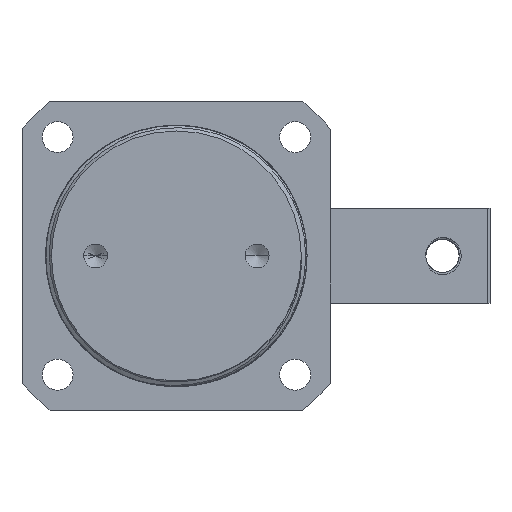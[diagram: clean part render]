
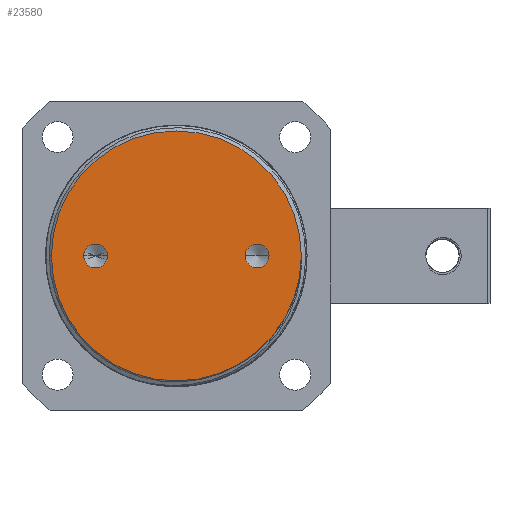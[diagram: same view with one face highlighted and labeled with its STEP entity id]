
A CAD part, front view. The second image highlights one B-rep face of the part: STEP entity #23580.
In plain terms, the highlighted planar face has unit normal (0, -1, 0).
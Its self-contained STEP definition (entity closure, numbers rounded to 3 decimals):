
#10277=CARTESIAN_POINT('',(0.,-72.5,0.));
#10278=DIRECTION('',(0.,-1.,0.));
#10279=DIRECTION('',(1.,0.,0.));
#10280=AXIS2_PLACEMENT_3D('',#10277,#10278,#10279);
#10292=CARTESIAN_POINT('',(0.,-72.5,0.));
#10293=DIRECTION('',(0.,1.,0.));
#10294=DIRECTION('',(1.,0.,0.));
#10295=AXIS2_PLACEMENT_3D('',#10292,#10293,#10294);
#10332=CARTESIAN_POINT('',(17.,-72.5,0.));
#10333=DIRECTION('',(0.,1.,0.));
#10334=DIRECTION('',(1.,0.,0.));
#10335=AXIS2_PLACEMENT_3D('',#10332,#10333,#10334);
#10337=CARTESIAN_POINT('',(17.,-72.5,0.));
#10338=DIRECTION('',(0.,1.,0.));
#10339=DIRECTION('',(-1.,0.,0.));
#10340=AXIS2_PLACEMENT_3D('',#10337,#10338,#10339);
#10342=CARTESIAN_POINT('',(-17.,-72.5,0.));
#10343=DIRECTION('',(0.,-1.,0.));
#10344=DIRECTION('',(-1.,0.,0.));
#10345=AXIS2_PLACEMENT_3D('',#10342,#10343,#10344);
#10347=CARTESIAN_POINT('',(-17.,-72.5,0.));
#10348=DIRECTION('',(0.,-1.,0.));
#10349=DIRECTION('',(1.,0.,0.));
#10350=AXIS2_PLACEMENT_3D('',#10347,#10348,#10349);
#10455=CARTESIAN_POINT('',(-26.3,-72.5,0.));
#10457=VERTEX_POINT('',#10455);
#10459=CARTESIAN_POINT('',(26.3,-72.5,0.));
#10460=VERTEX_POINT('',#10459);
#10701=CARTESIAN_POINT('',(19.5,-72.5,0.));
#10702=CARTESIAN_POINT('',(14.5,-72.5,0.));
#10703=VERTEX_POINT('',#10701);
#10704=VERTEX_POINT('',#10702);
#10711=CARTESIAN_POINT('',(-19.5,-72.5,0.));
#10712=CARTESIAN_POINT('',(-14.5,-72.5,0.));
#10713=VERTEX_POINT('',#10711);
#10714=VERTEX_POINT('',#10712);
#23559=CARTESIAN_POINT('',(0.,-72.5,0.));
#23560=DIRECTION('',(0.,-1.,0.));
#23561=DIRECTION('',(-1.,0.,0.));
#23562=AXIS2_PLACEMENT_3D('',#23559,#23560,#23561);
#23563=PLANE('',#23562);
#23564=ORIENTED_EDGE('',*,*,#23542,.T.);
#23565=ORIENTED_EDGE('',*,*,#23525,.F.);
#23566=EDGE_LOOP('',(#23564,#23565));
#23567=FACE_OUTER_BOUND('',#23566,.F.);
#23569=ORIENTED_EDGE('',*,*,#23568,.F.);
#23571=ORIENTED_EDGE('',*,*,#23570,.F.);
#23572=EDGE_LOOP('',(#23569,#23571));
#23573=FACE_BOUND('',#23572,.F.);
#23575=ORIENTED_EDGE('',*,*,#23574,.T.);
#23577=ORIENTED_EDGE('',*,*,#23576,.T.);
#23578=EDGE_LOOP('',(#23575,#23577));
#23579=FACE_BOUND('',#23578,.F.);
#23580=ADVANCED_FACE('',(#23567,#23573,#23579),#23563,.T.);
#10281=CIRCLE('',#10280,26.3);
#10296=CIRCLE('',#10295,26.3);
#10336=CIRCLE('',#10335,2.5);
#10341=CIRCLE('',#10340,2.5);
#10346=CIRCLE('',#10345,2.5);
#10351=CIRCLE('',#10350,2.5);
#23525=EDGE_CURVE('',#10460,#10457,#10281,.T.);
#23542=EDGE_CURVE('',#10460,#10457,#10296,.T.);
#23568=EDGE_CURVE('',#10703,#10704,#10336,.T.);
#23570=EDGE_CURVE('',#10704,#10703,#10341,.T.);
#23574=EDGE_CURVE('',#10713,#10714,#10346,.T.);
#23576=EDGE_CURVE('',#10714,#10713,#10351,.T.);
